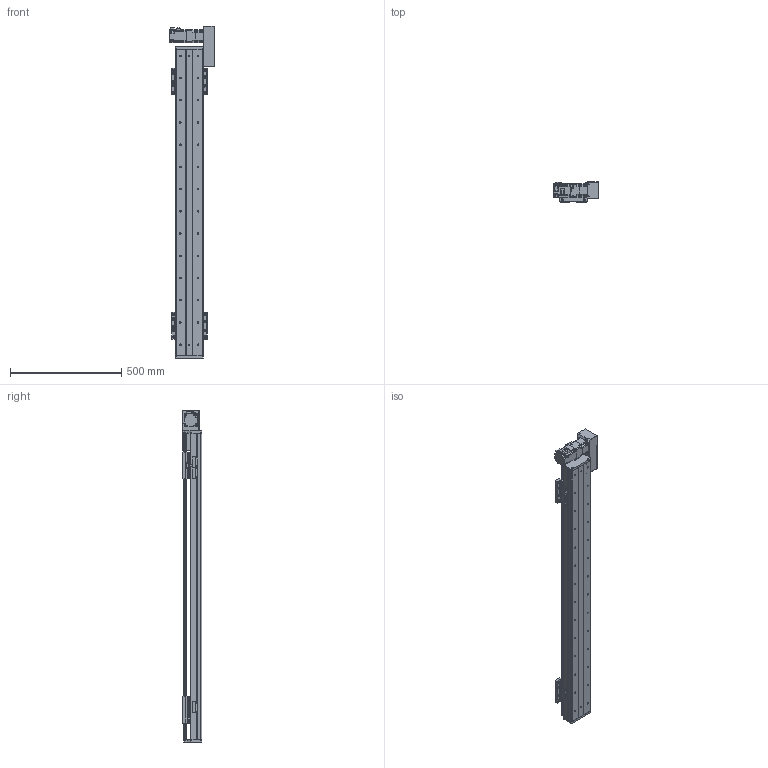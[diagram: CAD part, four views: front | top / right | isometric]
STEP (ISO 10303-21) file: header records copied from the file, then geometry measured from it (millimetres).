
FILE_DESCRIPTION(/* description */ (''),/* implementation_level */ '2;1');
FILE_NAME(/* name */ 'C:\Users\PC\Desktop\3D도면\STEP\STEP\DSB125-R2G-W1100-L.stp',/* time_stamp */ '2018-06-13T15:58:38+09:00',/* author */ ('PC'),/* organization */ (''),/* preprocessor_version */ 'ST-DEVELOPER v16.5',/* originating_system */ 'Autodesk Inventor 2017',/* authorisation */ '');
FILE_SCHEMA (('AUTOMOTIVE_DESIGN { 1 0 10303 214 3 1 1 }'));
Length unit declared in the file: millimetre
Products named in the file (12): DSB125-L2G-W1100-R_MIR; DSB125-BASE_MIR; DSB125-FRONT COVER_MIR; DSB125-REAR COVER_MIR; DSB125-UP COVER_MIR; DSB125-TABLE(MSB15S)_MIR; hg-kr23__MIR; ab0601-p0401200402_MIR; 13-BELT COVER_MIR; DSR125-SENSOR DOG_MIR; pm-y65_step_MIR; SENSOR BRACKET(EE-SX674A)_MIR
Assembly tree (16 placements, depth 2):
  DSB125-L2G-W1100-R_MIR
    DSB125-BASE_MIR
    DSB125-FRONT COVER_MIR
    DSB125-REAR COVER_MIR
    DSB125-UP COVER_MIR
    DSB125-TABLE(MSB15S)_MIR  x2
    hg-kr23__MIR
    ab0601-p0401200402_MIR
    13-BELT COVER_MIR
    DSR125-SENSOR DOG_MIR
    pm-y65_step_MIR  x3
    SENSOR BRACKET(EE-SX674A)_MIR  x3
Bounding box: 202.1 x 88 x 1494 mm (x, y, z)
Volume: 5099917.5 mm3; surface area: 1468497 mm2
Topology: 17 solids, 17 shells, 1667 faces, 4520 edges, 2978 vertices
Faces by surface type: plane 903, cylinder 634, cone 118, sphere 8, torus 4
Full cylindrical faces by diameter (mm): 2.459 x20, 3.242 x16, 3.5 x6, 4 x1, 4.134 x16, 4.2 x4, 4.3 x1, 4.5 x50, 4.917 x20, 5 x22, 5.3 x1, 5.5 x4, 5.6 x8, 5.8 x4, 5.9 x8, 6 x4, 6.6 x22, 6.647 x28, 7.5 x32, 8.5 x8, 8.7 x1, 11 x22, 14 x1, 16 x2, 17 x1, 20 x1, 47 x1, 50 x3
Entity records: 36137 total; most frequent: CARTESIAN_POINT 6507, DIRECTION 6138, ORIENTED_EDGE 5490, EDGE_CURVE 2745, AXIS2_PLACEMENT_3D 2257, VERTEX_POINT 1954, EDGE_LOOP 1685, LINE 1624
